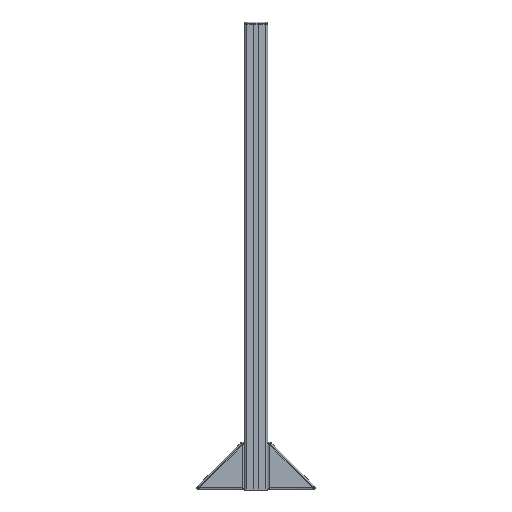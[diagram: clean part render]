
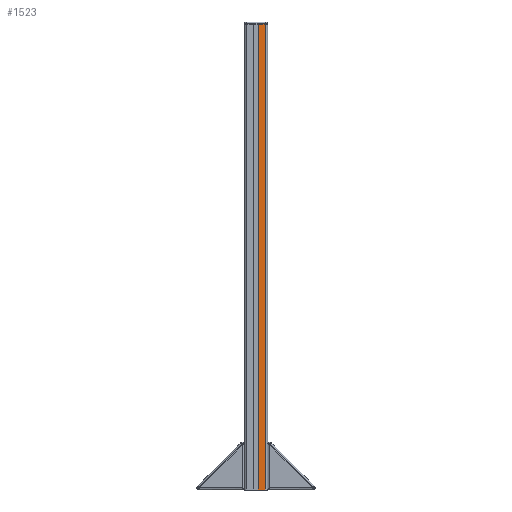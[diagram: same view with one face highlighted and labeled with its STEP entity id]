
A CAD part, left-side view. The second image highlights one B-rep face of the part: STEP entity #1523.
In plain terms, the highlighted planar face has unit normal (-1, 0, 0).
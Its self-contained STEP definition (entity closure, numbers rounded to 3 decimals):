
#1523=ADVANCED_FACE('',(#1782),#1638,.F.);
#1638=PLANE('',#5155);
#1782=FACE_OUTER_BOUND('',#1992,.T.);
#1992=EDGE_LOOP('',(#3016,#3017,#3018,#3019));
#3016=ORIENTED_EDGE('',*,*,#4351,.T.);
#3017=ORIENTED_EDGE('',*,*,#4352,.F.);
#3018=ORIENTED_EDGE('',*,*,#4300,.F.);
#3019=ORIENTED_EDGE('',*,*,#4303,.T.);
#3681=VERTEX_POINT('',#8859);
#3686=VERTEX_POINT('',#8905);
#3688=VERTEX_POINT('',#8912);
#3731=VERTEX_POINT('',#9068);
#4300=EDGE_CURVE('',#3686,#3681,#4591,.T.);
#4303=EDGE_CURVE('',#3686,#3688,#4593,.T.);
#4351=EDGE_CURVE('',#3688,#3731,#4620,.T.);
#4352=EDGE_CURVE('',#3681,#3731,#4621,.T.);
#4591=LINE('',#8906,#4820);
#4593=LINE('',#8913,#4822);
#4620=LINE('',#9067,#4849);
#4621=LINE('',#9069,#4850);
#4820=VECTOR('',#5795,1.);
#4822=VECTOR('',#5799,1.);
#4849=VECTOR('',#5872,1.);
#4850=VECTOR('',#5873,1.);
#5155=AXIS2_PLACEMENT_3D('',#9070,#5874,#5875);
#5795=DIRECTION('',(0.,-1.,0.));
#5799=DIRECTION('',(0.,0.,-1.));
#5872=DIRECTION('',(0.,-1.,0.));
#5873=DIRECTION('',(0.,0.,-1.));
#5874=DIRECTION('',(1.,0.,0.));
#5875=DIRECTION('',(0.,0.,-1.));
#8859=CARTESIAN_POINT('',(0.,4.,800.));
#8905=CARTESIAN_POINT('',(0.,16.,800.));
#8906=CARTESIAN_POINT('',(0.,15.,800.));
#8912=CARTESIAN_POINT('',(0.,16.,0.));
#8913=CARTESIAN_POINT('',(0.,16.,80.));
#9067=CARTESIAN_POINT('',(0.,15.,0.));
#9068=CARTESIAN_POINT('',(0.,4.,0.));
#9069=CARTESIAN_POINT('',(0.,4.,80.));
#9070=CARTESIAN_POINT('',(0.,15.,80.));
